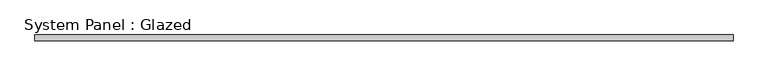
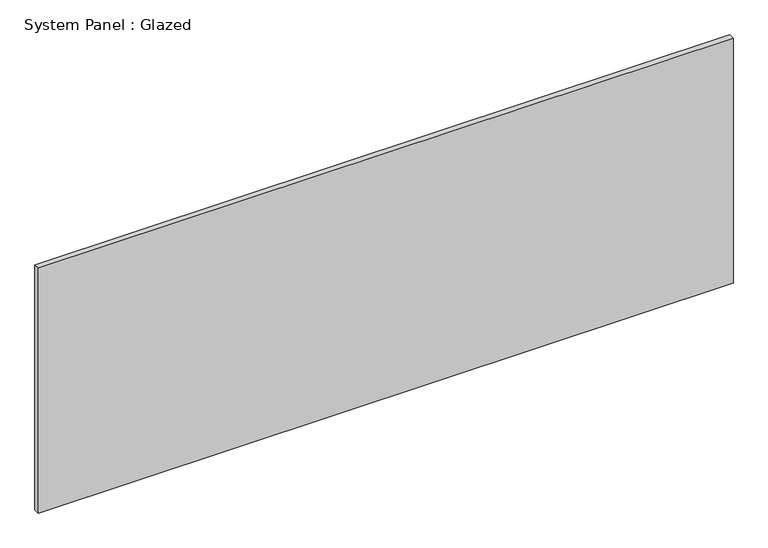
"""IFC4 building model written with IfcOpenShell, lengths in millimetres: plate geometry, System Panel : Glazed."""

from ifc_helpers import new_model, si_unit, origin, origin_with_axes, place, context, project, spatial, polyline, outline, extrude, source, transform, mapped, element, save


def system_panel_glazed_34a378e1(model_context):
    return source(origin(), model_context, "Body", "SweptSolid", [
        extrude(outline(polyline([(1507.7197518, 24.5), (-1507.7197518, 24.5), (-1507.7197518, 49.5), (1507.7197518, 49.5), (1507.7197518, 24.5)])), origin_with_axes(), (0.0, 0.0, 1.0), 1125.0),
    ])


if __name__ == "__main__":
    model = new_model("IFC4")
    model_context = context("Model", 3, world=origin())
    ifc_project = project(units=[si_unit("LENGTHUNIT", "METRE", prefix="MILLI")], contexts=[model_context])
    site = spatial("IfcSite", under=ifc_project)
    building = spatial("IfcBuilding", under=site)
    placement = place(None, origin())
    system_panel_glazed_shape = system_panel_glazed_34a378e1(model_context)
    element("IfcPlate", 1, ObjectType="System Panel : Glazed", at=placement, inside=building, context=model_context, shape_type="MappedRepresentation", body=[
        mapped(system_panel_glazed_shape, transform((0.0, 0.0, 0.0), x_axis=(1.0, 0.0, 0.0), y_axis=(0.0, 1.0, 0.0), z_axis=(0.0, 0.0, 1.0))),
    ])
    save(model, "model.ifc")
